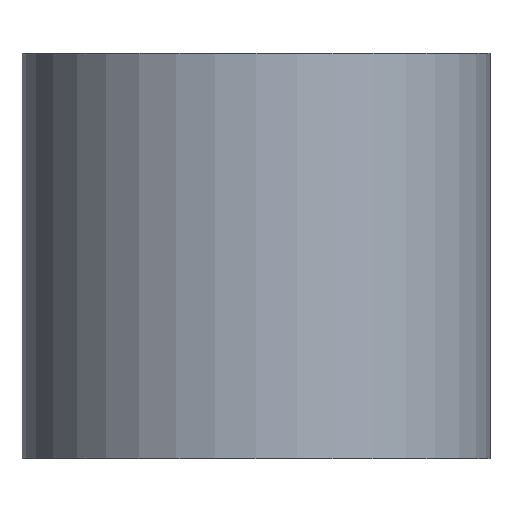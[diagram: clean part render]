
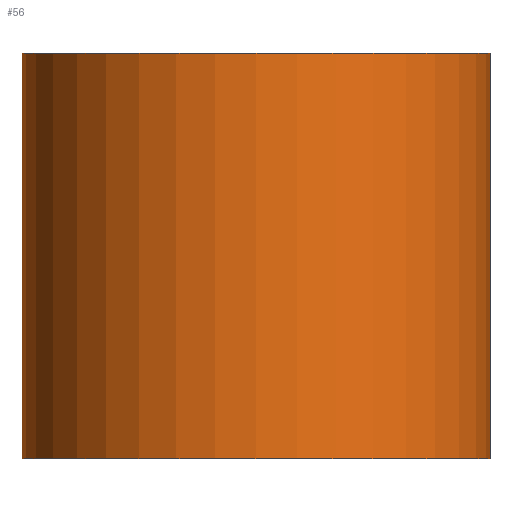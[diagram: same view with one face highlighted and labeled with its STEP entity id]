
A CAD part, front view. The second image highlights one B-rep face of the part: STEP entity #56.
In plain terms, the highlighted cylindrical face has radius 6 mm (diameter 12 mm), a full revolution.
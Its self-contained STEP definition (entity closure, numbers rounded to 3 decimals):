
#18=FACE_BOUND('',#28,.T.);
#22=FACE_OUTER_BOUND('',#27,.T.);
#27=EDGE_LOOP('',(#47));
#28=EDGE_LOOP('',(#48));
#35=CIRCLE('',#65,6.);
#36=CIRCLE('',#66,6.);
#39=VERTEX_POINT('',#94);
#40=VERTEX_POINT('',#96);
#43=EDGE_CURVE('',#39,#39,#35,.T.);
#44=EDGE_CURVE('',#40,#40,#36,.T.);
#47=ORIENTED_EDGE('',*,*,#43,.F.);
#48=ORIENTED_EDGE('',*,*,#44,.F.);
#54=CYLINDRICAL_SURFACE('',#64,6.);
#56=ADVANCED_FACE('',(#22,#18),#54,.T.);
#64=AXIS2_PLACEMENT_3D('',#93,#77,#78);
#65=AXIS2_PLACEMENT_3D('',#95,#79,#80);
#66=AXIS2_PLACEMENT_3D('',#97,#81,#82);
#77=DIRECTION('center_axis',(0.,0.,1.));
#78=DIRECTION('ref_axis',(-1.,0.,0.));
#79=DIRECTION('center_axis',(0.,0.,1.));
#80=DIRECTION('ref_axis',(-1.,0.,0.));
#81=DIRECTION('center_axis',(0.,0.,-1.));
#82=DIRECTION('ref_axis',(-1.,0.,0.));
#93=CARTESIAN_POINT('Origin',(0.,0.,0.));
#94=CARTESIAN_POINT('',(6.,0.,10.4));
#95=CARTESIAN_POINT('Origin',(0.,0.,10.4));
#96=CARTESIAN_POINT('',(6.,0.,0.));
#97=CARTESIAN_POINT('Origin',(0.,0.,0.));
